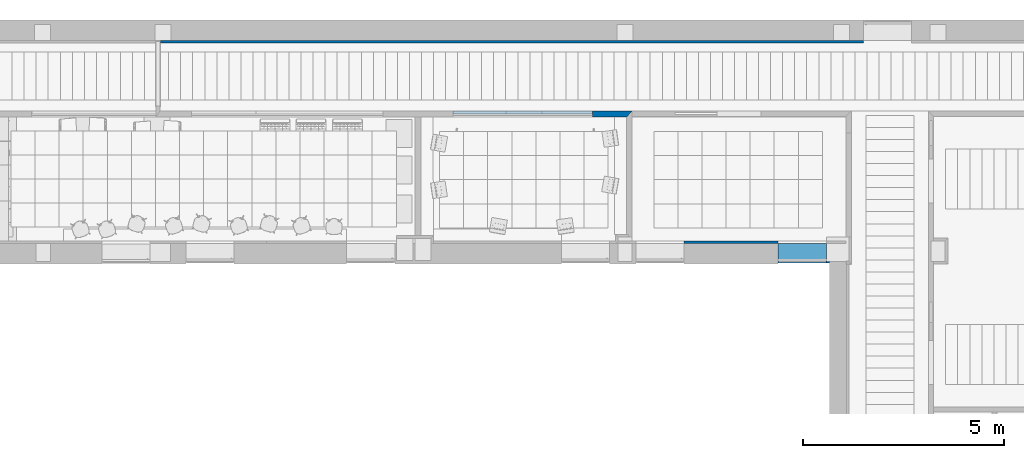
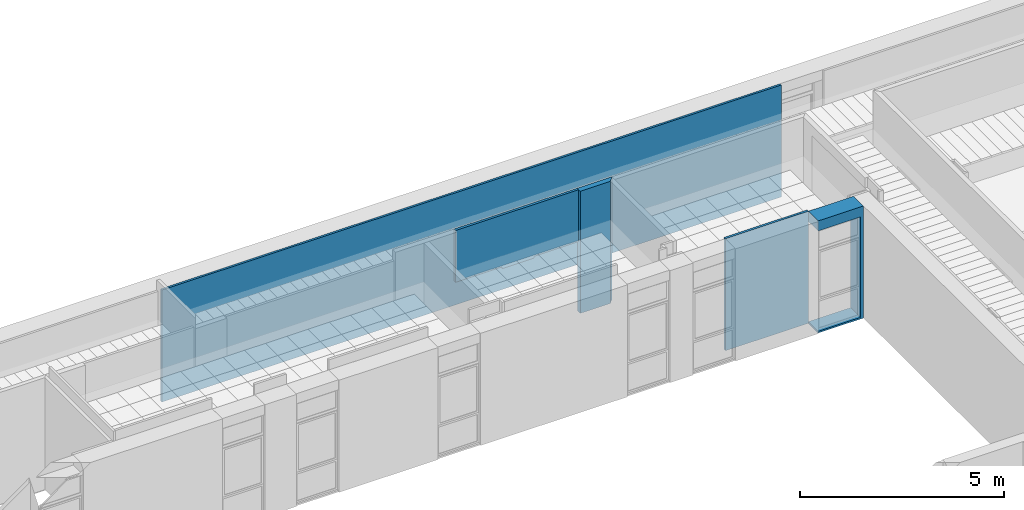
# One storey, part 39 of 60: 5 walls, 4 openings.
"""IFC2X3 building model written with IfcOpenShell, lengths in millimetres."""

from ifc_helpers import new_model, entity, si_unit, converted_unit, derived_unit, money_unit, direction, frame, origin_with_axes, origin_2d_with_axis, place, context, subcontext, project, spatial, polyline, rectangle, outline, extrude, material, layer, layer_set, layer_usage, type_object, element, save


model = new_model("IFC2X3")

# Units and contexts
model_context = context("Model", 3, precision=0.01, world=origin_with_axes(), true_north=direction((0.0, 1.0)))
body_context = subcontext(model_context, "Body", "Model", "MODEL_VIEW")
ifc_project = project(units=[si_unit("LENGTHUNIT", "METRE", prefix="MILLI"), si_unit("AREAUNIT", "SQUARE_METRE"), si_unit("VOLUMEUNIT", "CUBIC_METRE"), converted_unit("PLANEANGLEUNIT", "DEGREE", entity("IfcPlaneAngleMeasure", 0.0174532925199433), si_unit("PLANEANGLEUNIT", "RADIAN"), dimensions=[0, 0, 0, 0, 0, 0, 0]), money_unit("USD"), converted_unit("TIMEUNIT", "Year", entity("IfcTimeMeasure", 31557600.0), si_unit("TIMEUNIT", "SECOND"), dimensions=[0, 0, 1, 0, 0, 0, 0]), si_unit("MASSUNIT", "GRAM", prefix="KILO"), si_unit("THERMODYNAMICTEMPERATUREUNIT", "DEGREE_CELSIUS"), si_unit("LUMINOUSINTENSITYUNIT", "LUMEN"), si_unit("ENERGYUNIT", "JOULE", prefix="MEGA"), derived_unit("THERMALCONDUCTANCEUNIT", [(si_unit("POWERUNIT", "WATT"), 1), (si_unit("LENGTHUNIT", "METRE"), -1), (si_unit("THERMODYNAMICTEMPERATUREUNIT", "KELVIN"), -1)]), derived_unit("SPECIFICHEATCAPACITYUNIT", [(si_unit("ENERGYUNIT", "JOULE"), 1), (si_unit("MASSUNIT", "GRAM", prefix="KILO"), -1), (si_unit("THERMODYNAMICTEMPERATUREUNIT", "KELVIN"), -1)]), derived_unit("MASSDENSITYUNIT", [(si_unit("MASSUNIT", "GRAM", prefix="KILO"), 1), (si_unit("VOLUMEUNIT", "CUBIC_METRE"), -1)])], contexts=[model_context])

# Site, building, storey
site_placement = place(None, origin_with_axes())
site = spatial("IfcSite", under=ifc_project, at=site_placement, Name="Sitio", CompositionType="ELEMENT")
building_placement = place(site_placement, origin_with_axes())
building = spatial("IfcBuilding", under=site, at=building_placement, Name="Construcción", CompositionType="ELEMENT")
storey_placement = place(building_placement, frame((0.0, 0.0, 3650.0), z_axis=(0.0, 0.0, 1.0), x_axis=(1.0, 0.0, 0.0)))
storey = spatial("IfcBuildingStorey", under=building, at=storey_placement, Name="PLANTA 2ª", CompositionType="ELEMENT", Elevation=3650.0)

# Wall, opening
ifc_material_1 = material(Name="ARQ_AM246_Arrebossat_De_Guix")
ifc_layer_1 = layer(ifc_material_1, 10.0, ventilated="UNKNOWN")
ifc_material_2 = material(Name="ARQ_CE217_Gero")
ifc_layer_2 = layer(ifc_material_2, 120.0, ventilated="UNKNOWN")
ifc_material_3 = material(Name="ARQ_AI031_Aillament_Poliestireno expandido EPS")
ifc_layer_3 = layer(ifc_material_3, 120.0, ventilated="UNKNOWN")
ifc_material_4 = material(Name="ARQ_CE218_Ceramic")
ifc_layer_4 = layer(ifc_material_4, 220.0, ventilated="UNKNOWN")
ifc_layer_5 = layer(ifc_material_1, 10.0, ventilated="UNKNOWN")
ifc_layer_set_1 = layer_set([ifc_layer_1, ifc_layer_2, ifc_layer_3, ifc_layer_4, ifc_layer_5], Name="façana pati CR2 (ampit)")
ifc_layer_usage_1 = layer_usage(ifc_layer_set_1, "AXIS2", "POSITIVE", -480.0)
wall_type_1 = type_object("IfcWallType", Name="façana pati CR2 (ampit) 480", PredefinedType="NOTDEFINED")
wall_1_placement = place(storey_placement, frame((-3383.431355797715, -1193.975823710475, 0.0), z_axis=(0.0, 0.0, 1.0), x_axis=(1.0, 0.0, 0.0)))
wall_1 = element("IfcWallStandardCase", 1, at=wall_1_placement, inside=storey, type_object=wall_type_1, material=ifc_layer_usage_1, Name="MS-200", context=body_context, shape_type="SweptSolid", body=[
    extrude(outline(polyline([(0.0, -480.0), (1282.322350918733, -480.0), (1282.322350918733, 0.0), (0.0, 0.0), (0.0, -480.0)])), origin_with_axes(), (0.0, 0.0, 1.0), 3350.0),
])
opening_1_placement = place(wall_1_placement, frame((599.9999999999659, 0.0, 49.99999999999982), z_axis=(0.0, 0.0, 1.0), x_axis=(1.0, 0.0, 0.0)))
element("IfcOpeningElement", 2, at=opening_1_placement, cuts=wall_1, Name="F01", context=body_context, shape_type="SweptSolid", body=[
    extrude(rectangle(XDim=1199.999999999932, YDim=3000.0, at=origin_2d_with_axis()), frame((0.0, -429.9999999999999, 1500.0), z_axis=(0.0, -1.0, 0.0), x_axis=(-1.0, 0.0, 0.0)), (0.0, 0.0, -1.0), 909.9999999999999),
    extrude(rectangle(XDim=1199.999999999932, YDim=3000.0, at=origin_2d_with_axis()), frame((0.0, -429.9999999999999, 1500.0), z_axis=(0.0, 1.0, 0.0), x_axis=(-1.0, 0.0, 0.0)), (0.0, 0.0, -1.0), 530.0),
])

# Wall, openings
ifc_material_5 = material(Name="Panel de Yeso Laminado")
ifc_layer_6 = layer(ifc_material_5, 5.0, ventilated="UNKNOWN")
ifc_material_6 = material(Name="ARQ_AI033_Aillament_Llana_De_Roca")
ifc_layer_7 = layer(ifc_material_6, 60.0, ventilated="UNKNOWN")
ifc_layer_8 = layer(ifc_material_5, 5.0, ventilated="UNKNOWN")
ifc_layer_set_2 = layer_set([ifc_layer_6, ifc_layer_7, ifc_layer_8], Name="CR- MAMPARA")
ifc_layer_usage_2 = layer_usage(ifc_layer_set_2, "AXIS2", "NEGATIVE", 0.0)
wall_type_2 = type_object("IfcWallType", Name="CR- MAMPARA 70", PredefinedType="NOTDEFINED")
wall_2_placement = place(storey_placement, frame((-8005.107268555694, 2039.554870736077, 0.0), z_axis=(0.0, 0.0, 1.0), x_axis=(-1.0, 0.0, 0.0)))
wall_2 = element("IfcWallStandardCase", 3, at=wall_2_placement, inside=storey, type_object=wall_type_2, material=ifc_layer_usage_2, Name="MS-211", context=body_context, shape_type="SweptSolid", body=[
    extrude(outline(polyline([(0.0, -69.99999999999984), (3477.728222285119, -69.99999999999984), (3477.728222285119, 0.0), (0.0, 0.0), (0.0, -69.99999999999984)])), origin_with_axes(), (0.0, 0.0, 1.0), 3650.0),
])
opening_2_placement = place(wall_2_placement, frame((631.9320555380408, 0.0, 0.0), z_axis=(0.0, 0.0, 1.0), x_axis=(1.0, 0.0, 0.0)))
element("IfcOpeningElement", 4, at=opening_2_placement, cuts=wall_2, Name="M-15", context=body_context, shape_type="SweptSolid", body=[
    extrude(rectangle(XDim=1263.864111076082, YDim=2100.0, at=origin_2d_with_axis()), frame((0.0, 70.00000000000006, 1050.0), z_axis=(0.0, -1.0, 0.0), x_axis=(-1.0, 0.0, 0.0)), (0.0, 0.0, 1.0), 210.0),
])
opening_3_placement = place(wall_2_placement, frame((1713.864111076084, 0.0, 0.0), z_axis=(0.0, 0.0, 1.0), x_axis=(1.0, 0.0, 0.0)))
element("IfcOpeningElement", 5, at=opening_3_placement, cuts=wall_2, Name="PM-3", context=body_context, shape_type="SweptSolid", body=[
    extrude(rectangle(XDim=899.9999999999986, YDim=2050.0, at=origin_2d_with_axis()), frame((0.0, -69.99999999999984, 1025.0), z_axis=(0.0, 1.0, 0.0), x_axis=(1.0, 0.0, 0.0)), (0.0, 0.0, 1.0), 210.0),
])
opening_4_placement = place(wall_2_placement, frame((2820.796166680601, 0.0, 0.0), z_axis=(0.0, 0.0, 1.0), x_axis=(1.0, 0.0, 0.0)))
element("IfcOpeningElement", 6, at=opening_4_placement, cuts=wall_2, Name="M-14", context=body_context, shape_type="SweptSolid", body=[
    extrude(rectangle(XDim=1313.864111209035, YDim=2100.0, at=origin_2d_with_axis()), frame((0.0, 70.00000000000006, 1050.0), z_axis=(0.0, -1.0, 0.0), x_axis=(-1.0, 0.0, 0.0)), (0.0, 0.0, 1.0), 210.0),
])

# Walls
ifc_material_7 = material(Name="ARQ_FU093_Panellat_HPL")
ifc_layer_9 = layer(ifc_material_7, 6.0, ventilated="UNKNOWN")
ifc_material_8 = material(Name="ARQ_EN271_Camara_Aire")
ifc_layer_10 = layer(ifc_material_8, 6.0, ventilated="UNKNOWN")
ifc_layer_11 = layer(ifc_material_5, 13.0, ventilated="UNKNOWN")
ifc_layer_12 = layer(ifc_material_5, 13.0, ventilated="UNKNOWN")
ifc_layer_13 = layer(ifc_material_6, 70.0, ventilated="UNKNOWN")
ifc_layer_14 = layer(ifc_material_5, 13.0, ventilated="UNKNOWN")
ifc_layer_15 = layer(ifc_material_5, 13.0, ventilated="UNKNOWN")
ifc_layer_16 = layer(ifc_material_8, 6.0, ventilated="UNKNOWN")
ifc_layer_17 = layer(ifc_material_7, 6.0, ventilated="UNKNOWN")
ifc_layer_set_3 = layer_set([ifc_layer_9, ifc_layer_10, ifc_layer_11, ifc_layer_12, ifc_layer_13, ifc_layer_14, ifc_layer_15, ifc_layer_16, ifc_layer_17], Name="CR Pladur 70 HPL 2 cares")
ifc_layer_usage_3 = layer_usage(ifc_layer_set_3, "AXIS2", "NEGATIVE", 0.0)
wall_type_3 = type_object("IfcWallType", Name="CR Pladur 70 HPL 2 cares 146", PredefinedType="NOTDEFINED")
wall_3_placement = place(storey_placement, frame((-7021.107268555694, 1963.554870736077, 0.0), z_axis=(0.0, 0.0, 1.0), x_axis=(-1.0, 0.0, 0.0)))
element("IfcWallStandardCase", 7, at=wall_3_placement, inside=storey, type_object=wall_type_3, material=ifc_layer_usage_3, Name="MS-211", context=body_context, shape_type="SweptSolid", body=[
    extrude(outline(polyline([(0.0, -145.9999999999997), (984.0, -146.0000000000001), (984.0, 0.0), (133.9999999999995, 0.0), (0.0, -145.9999999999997)])), origin_with_axes(), (0.0, 0.0, 1.0), 3650.0),
])
ifc_layer_18 = layer(ifc_material_5, 13.0, ventilated="UNKNOWN")
ifc_layer_19 = layer(ifc_material_5, 13.0, ventilated="UNKNOWN")
ifc_layer_20 = layer(ifc_material_6, 40.0, ventilated="UNKNOWN")
ifc_layer_set_4 = layer_set([ifc_layer_18, ifc_layer_19, ifc_layer_20], Name="Pladur Tras 40 / 2N")
ifc_layer_usage_4 = layer_usage(ifc_layer_set_4, "AXIS2", "NEGATIVE", 0.0)
wall_type_4 = type_object("IfcWallType", Name="Pladur Tras 40 / 2N 66", PredefinedType="NOTDEFINED")
wall_4_placement = place(storey_placement, frame((-5725.999673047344, -1128.975823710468, 0.0), z_axis=(0.0, 0.0, 1.0), x_axis=(1.0, 0.0, 0.0)))
element("IfcWallStandardCase", 8, at=wall_4_placement, inside=storey, type_object=wall_type_4, material=ifc_layer_usage_4, Name="MS-241", context=body_context, shape_type="SweptSolid", body=[
    extrude(outline(polyline([(0.0, -66.00000000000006), (2342.568317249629, -66.00000000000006), (2342.568317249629, 0.0), (0.0, 0.0), (0.0, -66.00000000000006)])), origin_with_axes(), (0.0, 0.0, 1.0), 3350.0),
])
ifc_layer_21 = layer(ifc_material_1, 20.0, ventilated="UNKNOWN")
ifc_layer_22 = layer(ifc_material_8, 40.0, ventilated="UNKNOWN")
ifc_layer_set_5 = layer_set([ifc_layer_21, ifc_layer_22], Name="CR Revestiment HPL")
ifc_layer_usage_5 = layer_usage(ifc_layer_set_5, "AXIS2", "POSITIVE", -60.0)
wall_type_5 = type_object("IfcWallType", Name="CR Revestiment HPL 60", PredefinedType="NOTDEFINED")
wall_5_placement = place(storey_placement, frame((-18771.2854937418, 3863.454186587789, 0.0), z_axis=(0.0, 0.0, 1.0), x_axis=(1.0, 0.0, 0.0)))
element("IfcWallStandardCase", 9, at=wall_5_placement, inside=storey, type_object=wall_type_5, material=ifc_layer_usage_5, Name="MS-215", context=body_context, shape_type="SweptSolid", body=[
    extrude(outline(polyline([(0.0, -60.00000000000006), (17513.96618654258, -60.00000000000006), (17513.96618654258, 0.0), (0.0, 0.0), (0.0, -60.00000000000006)])), origin_with_axes(), (0.0, 0.0, 1.0), 3350.0),
])

save(model, "model.ifc")
